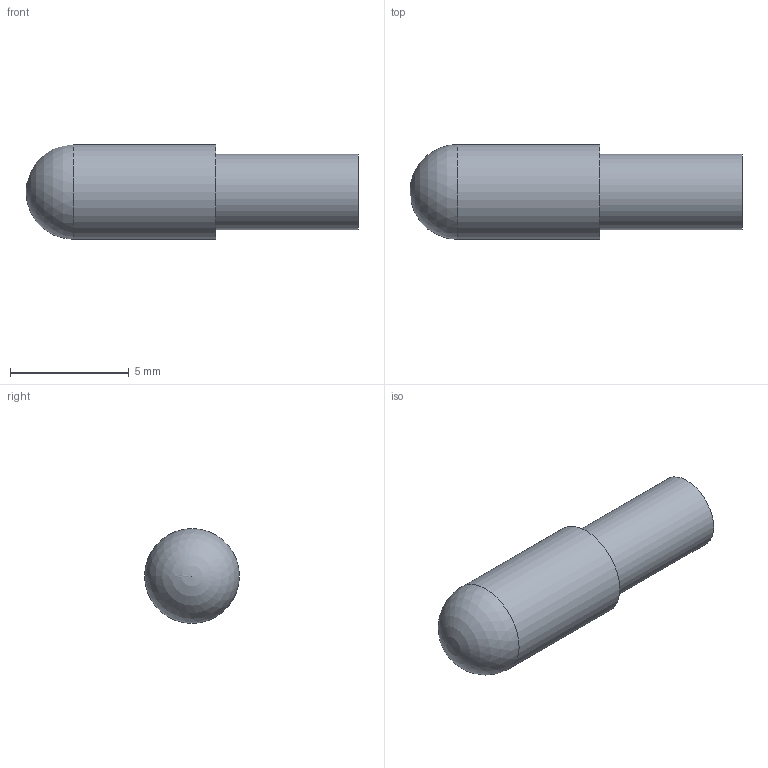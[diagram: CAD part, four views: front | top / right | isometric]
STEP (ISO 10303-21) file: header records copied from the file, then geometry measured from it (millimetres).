
FILE_DESCRIPTION( ( 'STEP AP203' ), '1' );
FILE_NAME( 'C:/Temp/Ganter_Step_05_03_2020/data/3_1/gn610/Spring loaded shell GN 610-4-14-H.stp', '2020-03-12T08:33:18', ( 'License CC BY-ND 4.0' ), ( 'CADENAS' ), ' ', 'PARTsolutions', ' ' );
FILE_SCHEMA( ( 'CONFIG_CONTROL_DESIGN' ) );
Length unit declared in the file: millimetre
Products named in the file (1): _Spring loaded shell GN 610-4-14-H
Bounding box: 14 x 4 x 4 mm (x, y, z)
Volume: 98 mm3; surface area: 230 mm2
Topology: 1 solids, 1 shells, 7 faces, 12 edges, 8 vertices
Faces by surface type: cylinder 3, plane 3, sphere 1
Full cylindrical faces by diameter (mm): 3 x1, 3.2 x1, 4 x1
Entity records: 182 total; most frequent: DIRECTION 28, CARTESIAN_POINT 21, AXIS2_PLACEMENT_3D 14, EDGE_LOOP 12, ORIENTED_EDGE 12, FACE_OUTER_BOUND 10, ADVANCED_FACE 7, VERTEX_POINT 7
